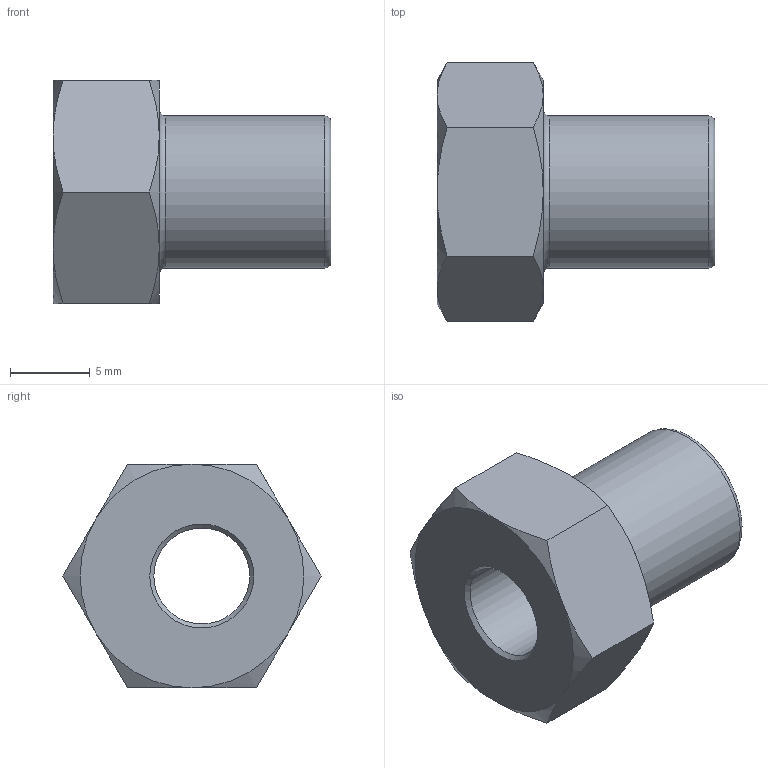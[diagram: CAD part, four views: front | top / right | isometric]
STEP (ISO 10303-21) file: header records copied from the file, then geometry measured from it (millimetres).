
FILE_DESCRIPTION( ( 'STEP AP214' ), '1' );
FILE_NAME( 'p:/temp/worker_32/temp/app_49_02019012316260705854383192d056f_000000_00_00_000000/format_0/MBX2SS.stp', '2019-01-23T15:26:07', ( '' ), ( '' ), ' ', 'PARTsolutions', ' ' );
FILE_SCHEMA( ( 'AUTOMOTIVE_DESIGN { 1 0 10303 214 1 1 1 1 }' ) );
Length unit declared in the file: inch
Products named in the file (1): _MBX2SS
Bounding box: 17.4 x 16.17 x 14 mm (x, y, z)
Volume: 1395 mm3; surface area: 1223.5 mm2
Topology: 1 solids, 1 shells, 27 faces, 56 edges, 32 vertices
Faces by surface type: cone 14, plane 9, torus 2, cylinder 2
Full cylindrical faces by diameter (mm): 6 x1, 9.52 x1
Entity records: 996 total; most frequent: CARTESIAN_POINT 246, DIRECTION 102, ORIENTED_EDGE 100, EDGE_CURVE 50, AXIS2_PLACEMENT_3D 48, EDGE_LOOP 36, VERTEX_POINT 32, FACE_OUTER_BOUND 31
